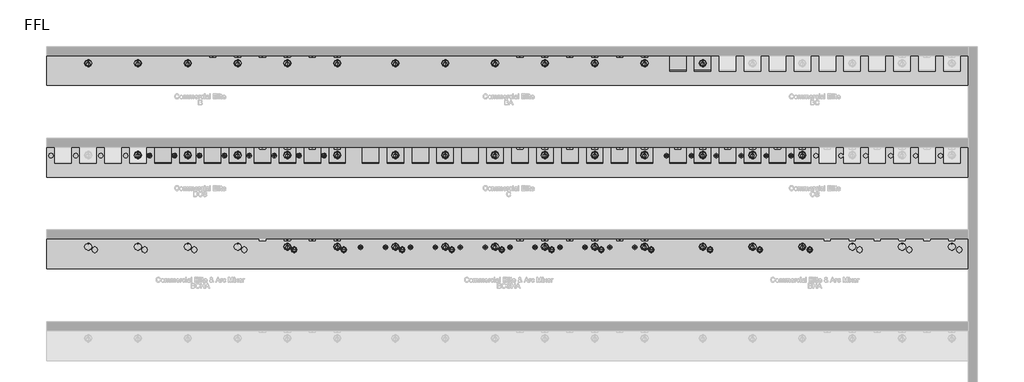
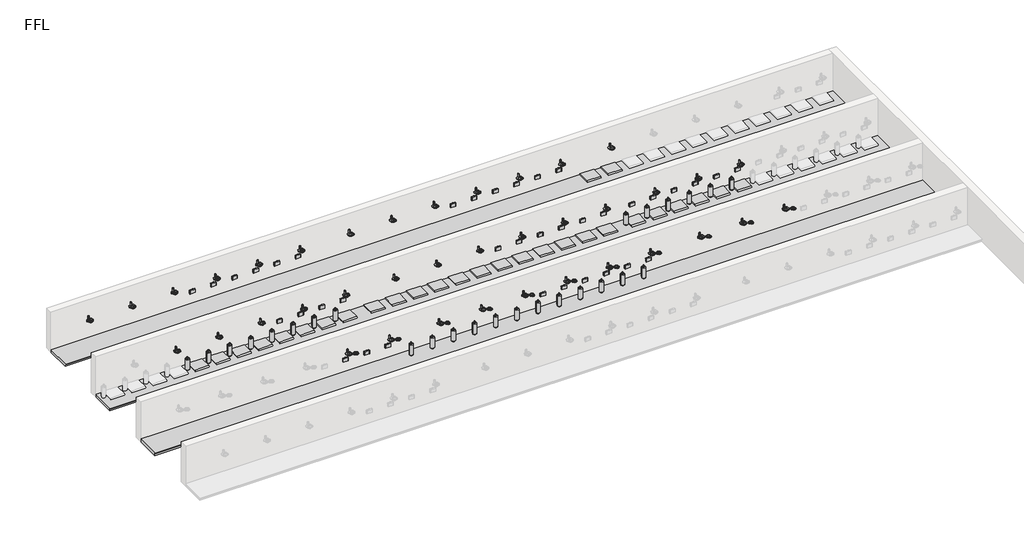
# One storey, part 2 of 13: 140 flow terminals, 3 furniture elements.
"""IFC4 building model written with IfcOpenShell, lengths in millimetres."""

from ifc_helpers import new_model, si_unit, origin, place, context, project, spatial, transform, mapped, element, save
from components import flow_terminal_100_people_nickel_19c471c0, flow_terminal_100_people_matte_black_0dc622b1, bcs_and_bc_6de74493, bright_chrome_743c02cf, brushed_chrome_13082571, co2_gas_cylinder_20234e14, generic_plinth_900mm_f1ea148c

model = new_model("IFC4")

# Units and contexts
model_context = context("Model", 3, world=origin())
ifc_project = project(units=[si_unit("LENGTHUNIT", "METRE", prefix="MILLI")], contexts=[model_context])

# Site, building, storey
site = spatial("IfcSite", under=ifc_project)
building = spatial("IfcBuilding", under=site)
storey = spatial("IfcBuildingStorey", under=building, Name="FFL", Elevation=0.0)

# Flow terminals
placement = place(None, origin())
flow_terminal_100_people_nickel_shape = flow_terminal_100_people_nickel_19c471c0(model_context)
element("IfcFlowTerminal", 1, ObjectType="PlumFixt_Zip Commercial_Elite_CS : 100 People - Bright Chrome", at=placement, inside=storey, context=model_context, shape_type="MappedRepresentation", body=[
    mapped(flow_terminal_100_people_nickel_shape, transform((12029.2647071, 4822.7393304, 0.0), x_axis=(1.0, 0.0, 0.0), y_axis=(0.0, 1.0, 0.0), z_axis=(0.0, 0.0, 1.0))),
])
element("IfcFlowTerminal", 2, ObjectType="PlumFixt_Zip Commercial_Elite_CS : 100 People - Brushed Chrome", at=placement, inside=storey, context=model_context, shape_type="MappedRepresentation", body=[
    mapped(flow_terminal_100_people_nickel_shape, transform((12779.2647071, 4822.7393304, 0.0), x_axis=(1.0, 0.0, 0.0), y_axis=(0.0, 1.0, 0.0), z_axis=(0.0, 0.0, 1.0))),
])
element("IfcFlowTerminal", 3, ObjectType="PlumFixt_Zip Commercial_Elite_CS : 100 People - Brushed Gold", at=placement, inside=storey, context=model_context, shape_type="MappedRepresentation", body=[
    mapped(flow_terminal_100_people_nickel_shape, transform((13529.2647071, 4822.7393304, 0.0), x_axis=(1.0, 0.0, 0.0), y_axis=(0.0, 1.0, 0.0), z_axis=(0.0, 0.0, 1.0))),
])
element("IfcFlowTerminal", 4, ObjectType="PlumFixt_Zip Commercial_Elite_CS : 100 People - Brushed Nickel", at=placement, inside=storey, context=model_context, shape_type="MappedRepresentation", body=[
    mapped(flow_terminal_100_people_nickel_shape, transform((14279.2647071, 4822.7393304, 0.0), x_axis=(1.0, 0.0, 0.0), y_axis=(0.0, 1.0, 0.0), z_axis=(0.0, 0.0, 1.0))),
])
element("IfcFlowTerminal", 5, ObjectType="PlumFixt_Zip Commercial_Elite_CS : 100 People - Brushed Rose Gold", at=placement, inside=storey, context=model_context, shape_type="MappedRepresentation", body=[
    mapped(flow_terminal_100_people_nickel_shape, transform((15029.2647071, 4822.7393304, 0.0), x_axis=(1.0, 0.0, 0.0), y_axis=(0.0, 1.0, 0.0), z_axis=(0.0, 0.0, 1.0))),
])
element("IfcFlowTerminal", 6, ObjectType="PlumFixt_Zip Commercial_Elite_CS : 100 People - Gloss Black", at=placement, inside=storey, context=model_context, shape_type="MappedRepresentation", body=[
    mapped(flow_terminal_100_people_nickel_shape, transform((15779.2647071, 4822.7393304, 0.0), x_axis=(1.0, 0.0, 0.0), y_axis=(0.0, 1.0, 0.0), z_axis=(0.0, 0.0, 1.0))),
])
flow_terminal_100_people_matte_black_shape = flow_terminal_100_people_matte_black_0dc622b1(model_context)
element("IfcFlowTerminal", 7, ObjectType="PlumFixt_Zip Commercial_Elite_B : 100 People - Gold", at=placement, inside=storey, context=model_context, shape_type="MappedRepresentation", body=[
    mapped(flow_terminal_100_people_matte_black_shape, transform((-1970.7352929, 7582.7393304, 0.0), x_axis=(1.0, 0.0, 0.0), y_axis=(0.0, 1.0, 0.0), z_axis=(0.0, 0.0, 1.0))),
])
element("IfcFlowTerminal", 8, ObjectType="PlumFixt_Zip Commercial_Elite_BA : 100 People - Gold", at=placement, inside=storey, context=model_context, shape_type="MappedRepresentation", body=[
    mapped(flow_terminal_100_people_matte_black_shape, transform((7279.2647071, 7582.7393304, 0.0), x_axis=(1.0, 0.0, 0.0), y_axis=(0.0, 1.0, 0.0), z_axis=(0.0, 0.0, 1.0))),
])
element("IfcFlowTerminal", 9, ObjectType="PlumFixt_Zip Commercial_Elite_C : 100 People - Gold", at=placement, inside=storey, context=model_context, shape_type="MappedRepresentation", body=[
    mapped(flow_terminal_100_people_nickel_shape, transform((7279.2647071, 4822.7393304, 0.0), x_axis=(1.0, 0.0, 0.0), y_axis=(0.0, 1.0, 0.0), z_axis=(0.0, 0.0, 1.0))),
])
element("IfcFlowTerminal", 10, ObjectType="PlumFixt_Zip Commercial_Elite_Arc Mixer_BCSHA : 100 People - Gold", at=placement, inside=storey, context=model_context, shape_type="MappedRepresentation", body=[
    mapped(flow_terminal_100_people_matte_black_shape, transform((7279.2647071, 2062.7393304, 0.0), x_axis=(1.0, 0.0, 0.0), y_axis=(0.0, 1.0, 0.0), z_axis=(0.0, 0.0, 1.0))),
])
element("IfcFlowTerminal", 11, ObjectType="PlumFixt_Zip Commercial_Elite_B : 100 People - Gunmetal", at=placement, inside=storey, context=model_context, shape_type="MappedRepresentation", body=[
    mapped(flow_terminal_100_people_matte_black_shape, transform((-1220.7352929, 7582.7393304, 0.0), x_axis=(1.0, 0.0, 0.0), y_axis=(0.0, 1.0, 0.0), z_axis=(0.0, 0.0, 1.0))),
])
element("IfcFlowTerminal", 12, ObjectType="PlumFixt_Zip Commercial_Elite_BA : 100 People - Gunmetal", at=placement, inside=storey, context=model_context, shape_type="MappedRepresentation", body=[
    mapped(flow_terminal_100_people_matte_black_shape, transform((8029.2647071, 7582.7393304, 0.0), x_axis=(1.0, 0.0, 0.0), y_axis=(0.0, 1.0, 0.0), z_axis=(0.0, 0.0, 1.0))),
])
element("IfcFlowTerminal", 13, ObjectType="PlumFixt_Zip Commercial_Elite_C : 100 People - Gunmetal", at=placement, inside=storey, context=model_context, shape_type="MappedRepresentation", body=[
    mapped(flow_terminal_100_people_nickel_shape, transform((8029.2647071, 4822.7393304, 0.0), x_axis=(1.0, 0.0, 0.0), y_axis=(0.0, 1.0, 0.0), z_axis=(0.0, 0.0, 1.0))),
])
element("IfcFlowTerminal", 14, ObjectType="PlumFixt_Zip Commercial_Elite_Arc Mixer_BCSHA : 100 People - Gunmetal", at=placement, inside=storey, context=model_context, shape_type="MappedRepresentation", body=[
    mapped(flow_terminal_100_people_matte_black_shape, transform((8029.2647071, 2062.7393304, 0.0), x_axis=(1.0, 0.0, 0.0), y_axis=(0.0, 1.0, 0.0), z_axis=(0.0, 0.0, 1.0))),
])
element("IfcFlowTerminal", 15, ObjectType="PlumFixt_Zip Commercial_Elite_B : 100 People - Matte Black", at=placement, inside=storey, context=model_context, shape_type="MappedRepresentation", body=[
    mapped(flow_terminal_100_people_matte_black_shape, transform((-470.7352929, 7582.7393304, 0.0), x_axis=(1.0, 0.0, 0.0), y_axis=(0.0, 1.0, 0.0), z_axis=(0.0, 0.0, 1.0))),
])
element("IfcFlowTerminal", 16, ObjectType="PlumFixt_Zip Commercial_Elite_BA : 100 People - Matte Black", at=placement, inside=storey, context=model_context, shape_type="MappedRepresentation", body=[
    mapped(flow_terminal_100_people_matte_black_shape, transform((8779.2647071, 7582.7393304, 0.0), x_axis=(1.0, 0.0, 0.0), y_axis=(0.0, 1.0, 0.0), z_axis=(0.0, 0.0, 1.0))),
])
element("IfcFlowTerminal", 17, ObjectType="PlumFixt_Zip Commercial_Elite_BCS : 100 People - Matte Black", at=placement, inside=storey, context=model_context, shape_type="MappedRepresentation", body=[
    mapped(flow_terminal_100_people_nickel_shape, transform((-470.7352929, 4822.7393304, 0.0), x_axis=(1.0, 0.0, 0.0), y_axis=(0.0, 1.0, 0.0), z_axis=(0.0, 0.0, 1.0))),
])
element("IfcFlowTerminal", 18, ObjectType="PlumFixt_Zip Commercial_Elite_C : 100 People - Matte Black", at=placement, inside=storey, context=model_context, shape_type="MappedRepresentation", body=[
    mapped(flow_terminal_100_people_nickel_shape, transform((8779.2647071, 4822.7393304, 0.0), x_axis=(1.0, 0.0, 0.0), y_axis=(0.0, 1.0, 0.0), z_axis=(0.0, 0.0, 1.0))),
])
element("IfcFlowTerminal", 19, ObjectType="PlumFixt_Zip Commercial_Elite_Arc Mixer_BCSHA : 100 People - Matte Black", at=placement, inside=storey, context=model_context, shape_type="MappedRepresentation", body=[
    mapped(flow_terminal_100_people_matte_black_shape, transform((8779.2647071, 2062.7393304, 0.0), x_axis=(1.0, 0.0, 0.0), y_axis=(0.0, 1.0, 0.0), z_axis=(0.0, 0.0, 1.0))),
])
element("IfcFlowTerminal", 20, ObjectType="PlumFixt_Zip Commercial_Elite_B : 100 People - Nickel", at=placement, inside=storey, context=model_context, shape_type="MappedRepresentation", body=[
    mapped(flow_terminal_100_people_matte_black_shape, transform((279.2647071, 7582.7393304, 0.0), x_axis=(1.0, 0.0, 0.0), y_axis=(0.0, 1.0, 0.0), z_axis=(0.0, 0.0, 1.0))),
])
element("IfcFlowTerminal", 21, ObjectType="PlumFixt_Zip Commercial_Elite_BA : 100 People - Nickel", at=placement, inside=storey, context=model_context, shape_type="MappedRepresentation", body=[
    mapped(flow_terminal_100_people_matte_black_shape, transform((9529.2647071, 7582.7393304, 0.0), x_axis=(1.0, 0.0, 0.0), y_axis=(0.0, 1.0, 0.0), z_axis=(0.0, 0.0, 1.0))),
])
element("IfcFlowTerminal", 22, ObjectType="PlumFixt_Zip Commercial_Elite_BCS : 100 People - Nickel", at=placement, inside=storey, context=model_context, shape_type="MappedRepresentation", body=[
    mapped(flow_terminal_100_people_nickel_shape, transform((279.2647071, 4822.7393304, 0.0), x_axis=(1.0, 0.0, 0.0), y_axis=(0.0, 1.0, 0.0), z_axis=(0.0, 0.0, 1.0))),
])
element("IfcFlowTerminal", 23, ObjectType="PlumFixt_Zip Commercial_Elite_C : 100 People - Nickel", at=placement, inside=storey, context=model_context, shape_type="MappedRepresentation", body=[
    mapped(flow_terminal_100_people_nickel_shape, transform((9529.2647071, 4822.7393304, 0.0), x_axis=(1.0, 0.0, 0.0), y_axis=(0.0, 1.0, 0.0), z_axis=(0.0, 0.0, 1.0))),
])
element("IfcFlowTerminal", 24, ObjectType="PlumFixt_Zip Commercial_Elite_Arc Mixer_BCSHA : 100 People - Nickel", at=placement, inside=storey, context=model_context, shape_type="MappedRepresentation", body=[
    mapped(flow_terminal_100_people_matte_black_shape, transform((9529.2647071, 2062.7393304, 0.0), x_axis=(1.0, 0.0, 0.0), y_axis=(0.0, 1.0, 0.0), z_axis=(0.0, 0.0, 1.0))),
])
element("IfcFlowTerminal", 25, ObjectType="PlumFixt_Zip Commercial_Elite_Arc Mixer_BCHA : 100 People - Nickel", at=placement, inside=storey, context=model_context, shape_type="MappedRepresentation", body=[
    mapped(flow_terminal_100_people_matte_black_shape, transform((279.2647071, 2062.7393304, 0.0), x_axis=(1.0, 0.0, 0.0), y_axis=(0.0, 1.0, 0.0), z_axis=(0.0, 0.0, 1.0))),
])
element("IfcFlowTerminal", 26, ObjectType="PlumFixt_Zip Commercial_Elite_B : 100 People - Platinum", at=placement, inside=storey, context=model_context, shape_type="MappedRepresentation", body=[
    mapped(flow_terminal_100_people_matte_black_shape, transform((1029.2647071, 7582.7393304, 0.0), x_axis=(1.0, 0.0, 0.0), y_axis=(0.0, 1.0, 0.0), z_axis=(0.0, 0.0, 1.0))),
])
element("IfcFlowTerminal", 27, ObjectType="PlumFixt_Zip Commercial_Elite_BA : 100 People - Platinum", at=placement, inside=storey, context=model_context, shape_type="MappedRepresentation", body=[
    mapped(flow_terminal_100_people_matte_black_shape, transform((10279.2647071, 7582.7393304, 0.0), x_axis=(1.0, 0.0, 0.0), y_axis=(0.0, 1.0, 0.0), z_axis=(0.0, 0.0, 1.0))),
])
element("IfcFlowTerminal", 28, ObjectType="PlumFixt_Zip Commercial_Elite_BCS : 100 People - Platinum", at=placement, inside=storey, context=model_context, shape_type="MappedRepresentation", body=[
    mapped(flow_terminal_100_people_nickel_shape, transform((1029.2647071, 4822.7393304, 0.0), x_axis=(1.0, 0.0, 0.0), y_axis=(0.0, 1.0, 0.0), z_axis=(0.0, 0.0, 1.0))),
])
element("IfcFlowTerminal", 29, ObjectType="PlumFixt_Zip Commercial_Elite_C : 100 People - Platinum", at=placement, inside=storey, context=model_context, shape_type="MappedRepresentation", body=[
    mapped(flow_terminal_100_people_nickel_shape, transform((10279.2647071, 4822.7393304, 0.0), x_axis=(1.0, 0.0, 0.0), y_axis=(0.0, 1.0, 0.0), z_axis=(0.0, 0.0, 1.0))),
])
element("IfcFlowTerminal", 30, ObjectType="PlumFixt_Zip Commercial_Elite_Arc Mixer_BCHA : 100 People - Platinum", at=placement, inside=storey, context=model_context, shape_type="MappedRepresentation", body=[
    mapped(flow_terminal_100_people_matte_black_shape, transform((1029.2647071, 2062.7393304, 0.0), x_axis=(1.0, 0.0, 0.0), y_axis=(0.0, 1.0, 0.0), z_axis=(0.0, 0.0, 1.0))),
])
element("IfcFlowTerminal", 31, ObjectType="PlumFixt_Zip Commercial_Elite_Arc Mixer_BCSHA : 100 People - Platinum", at=placement, inside=storey, context=model_context, shape_type="MappedRepresentation", body=[
    mapped(flow_terminal_100_people_matte_black_shape, transform((10279.2647071, 2062.7393304, 0.0), x_axis=(1.0, 0.0, 0.0), y_axis=(0.0, 1.0, 0.0), z_axis=(0.0, 0.0, 1.0))),
])
element("IfcFlowTerminal", 32, ObjectType="PlumFixt_Zip Commercial_Elite_B : 100 People - Rose Gold", at=placement, inside=storey, context=model_context, shape_type="MappedRepresentation", body=[
    mapped(flow_terminal_100_people_matte_black_shape, transform((1779.2647071, 7582.7393304, 0.0), x_axis=(1.0, 0.0, 0.0), y_axis=(0.0, 1.0, 0.0), z_axis=(0.0, 0.0, 1.0))),
])
element("IfcFlowTerminal", 33, ObjectType="PlumFixt_Zip Commercial_Elite_BA : 100 People - Rose Gold", at=placement, inside=storey, context=model_context, shape_type="MappedRepresentation", body=[
    mapped(flow_terminal_100_people_matte_black_shape, transform((11029.2647071, 7582.7393304, 0.0), x_axis=(1.0, 0.0, 0.0), y_axis=(0.0, 1.0, 0.0), z_axis=(0.0, 0.0, 1.0))),
])
element("IfcFlowTerminal", 34, ObjectType="PlumFixt_Zip Commercial_Elite_BCS : 100 People - Rose Gold", at=placement, inside=storey, context=model_context, shape_type="MappedRepresentation", body=[
    mapped(flow_terminal_100_people_nickel_shape, transform((1779.2647071, 4822.7393304, 0.0), x_axis=(1.0, 0.0, 0.0), y_axis=(0.0, 1.0, 0.0), z_axis=(0.0, 0.0, 1.0))),
])
element("IfcFlowTerminal", 35, ObjectType="PlumFixt_Zip Commercial_Elite_C : 100 People - Rose Gold", at=placement, inside=storey, context=model_context, shape_type="MappedRepresentation", body=[
    mapped(flow_terminal_100_people_nickel_shape, transform((11029.2647071, 4822.7393304, 0.0), x_axis=(1.0, 0.0, 0.0), y_axis=(0.0, 1.0, 0.0), z_axis=(0.0, 0.0, 1.0))),
])
element("IfcFlowTerminal", 36, ObjectType="PlumFixt_Zip Commercial_Elite_Arc Mixer_BCSHA : 100 People - Rose Gold", at=placement, inside=storey, context=model_context, shape_type="MappedRepresentation", body=[
    mapped(flow_terminal_100_people_matte_black_shape, transform((11029.2647071, 2062.7393304, 0.0), x_axis=(1.0, 0.0, 0.0), y_axis=(0.0, 1.0, 0.0), z_axis=(0.0, 0.0, 1.0))),
])
element("IfcFlowTerminal", 37, ObjectType="PlumFixt_Zip Commercial_Elite_Arc Mixer_BCHA : 100 People - Rose Gold", at=placement, inside=storey, context=model_context, shape_type="MappedRepresentation", body=[
    mapped(flow_terminal_100_people_matte_black_shape, transform((1779.2647071, 2062.7393304, 0.0), x_axis=(1.0, 0.0, 0.0), y_axis=(0.0, 1.0, 0.0), z_axis=(0.0, 0.0, 1.0))),
])
bcs_and_bc_shape = bcs_and_bc_6de74493(model_context)
element("IfcFlowTerminal", 38, ObjectType="z_PlumFixt_Zip_Vent Tray : BCS and BC", at=placement, inside=storey, context=model_context, shape_type="MappedRepresentation", body=[
    mapped(bcs_and_bc_shape, transform((12029.2647071, 7705.7393304, 100.0), x_axis=(1.0, 0.0, 0.0), y_axis=(0.0, 1.0, 0.0), z_axis=(0.0, 0.0, 1.0))),
])
element("IfcFlowTerminal", 39, ObjectType="z_PlumFixt_Zip_Vent Tray : BCS and BC", at=placement, inside=storey, context=model_context, shape_type="MappedRepresentation", body=[
    mapped(bcs_and_bc_shape, transform((12779.2647071, 7705.7393304, 100.0), x_axis=(1.0, 0.0, 0.0), y_axis=(0.0, 1.0, 0.0), z_axis=(0.0, 0.0, 1.0))),
])
element("IfcFlowTerminal", 40, ObjectType="z_PlumFixt_Zip_Vent Tray : BCS and BC", at=placement, inside=storey, context=model_context, shape_type="MappedRepresentation", body=[
    mapped(bcs_and_bc_shape, transform((-3470.7352929, 4945.7393304, 100.0), x_axis=(1.0, 0.0, 0.0), y_axis=(0.0, 1.0, 0.0), z_axis=(0.0, 0.0, 1.0))),
])
element("IfcFlowTerminal", 41, ObjectType="z_PlumFixt_Zip_Vent Tray : BCS and BC", at=placement, inside=storey, context=model_context, shape_type="MappedRepresentation", body=[
    mapped(bcs_and_bc_shape, transform((-2720.7352929, 4945.7393304, 100.0), x_axis=(1.0, 0.0, 0.0), y_axis=(0.0, 1.0, 0.0), z_axis=(0.0, 0.0, 1.0))),
])
element("IfcFlowTerminal", 42, ObjectType="z_PlumFixt_Zip_Vent Tray : BCS and BC", at=placement, inside=storey, context=model_context, shape_type="MappedRepresentation", body=[
    mapped(bcs_and_bc_shape, transform((-1970.7352929, 4945.7393304, 100.0), x_axis=(1.0, 0.0, 0.0), y_axis=(0.0, 1.0, 0.0), z_axis=(0.0, 0.0, 1.0))),
])
element("IfcFlowTerminal", 43, ObjectType="z_PlumFixt_Zip_Vent Tray : BCS and BC", at=placement, inside=storey, context=model_context, shape_type="MappedRepresentation", body=[
    mapped(bcs_and_bc_shape, transform((-1220.7352929, 4945.7393304, 100.0), x_axis=(1.0, 0.0, 0.0), y_axis=(0.0, 1.0, 0.0), z_axis=(0.0, 0.0, 1.0))),
])
element("IfcFlowTerminal", 44, ObjectType="z_PlumFixt_Zip_Vent Tray : BCS and BC", at=placement, inside=storey, context=model_context, shape_type="MappedRepresentation", body=[
    mapped(bcs_and_bc_shape, transform((-470.7352929, 4945.7393304, 100.0), x_axis=(1.0, 0.0, 0.0), y_axis=(0.0, 1.0, 0.0), z_axis=(0.0, 0.0, 1.0))),
])
element("IfcFlowTerminal", 45, ObjectType="z_PlumFixt_Zip_Vent Tray : BCS and BC", at=placement, inside=storey, context=model_context, shape_type="MappedRepresentation", body=[
    mapped(bcs_and_bc_shape, transform((279.2647071, 4945.7393304, 100.0), x_axis=(1.0, 0.0, 0.0), y_axis=(0.0, 1.0, 0.0), z_axis=(0.0, 0.0, 1.0))),
])
element("IfcFlowTerminal", 46, ObjectType="z_PlumFixt_Zip_Vent Tray : BCS and BC", at=placement, inside=storey, context=model_context, shape_type="MappedRepresentation", body=[
    mapped(bcs_and_bc_shape, transform((1029.2647071, 4945.7393304, 100.0), x_axis=(1.0, 0.0, 0.0), y_axis=(0.0, 1.0, 0.0), z_axis=(0.0, 0.0, 1.0))),
])
element("IfcFlowTerminal", 47, ObjectType="z_PlumFixt_Zip_Vent Tray : BCS and BC", at=placement, inside=storey, context=model_context, shape_type="MappedRepresentation", body=[
    mapped(bcs_and_bc_shape, transform((1779.2647071, 4945.7393304, 100.0), x_axis=(1.0, 0.0, 0.0), y_axis=(0.0, 1.0, 0.0), z_axis=(0.0, 0.0, 1.0))),
])
bright_chrome_shape = bright_chrome_743c02cf(model_context)
element("IfcFlowTerminal", 48, ObjectType="z_PlumFixt_Zip_Font : Bright Chrome", at=placement, inside=storey, context=model_context, shape_type="MappedRepresentation", body=[
    mapped(bright_chrome_shape, transform((3729.5498967, 1991.2393304, 900.0), x_axis=(1.0000000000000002, 0.0, 0.0), y_axis=(0.0, 1.0000000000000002, 0.0), z_axis=(0.0, 0.0, 1.0))),
])
element("IfcFlowTerminal", 49, ObjectType="z_PlumFixt_Zip_Font : Bright Chrome", at=placement, inside=storey, context=model_context, shape_type="MappedRepresentation", body=[
    mapped(bright_chrome_shape, transform((5229.5498967, 1991.2393304, 900.0), x_axis=(1.0000000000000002, 0.0, 0.0), y_axis=(0.0, 1.0000000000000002, 0.0), z_axis=(0.0, 0.0, 1.0))),
])
element("IfcFlowTerminal", 50, ObjectType="z_PlumFixt_Zip_Font : Bright Chrome", at=placement, inside=storey, context=model_context, shape_type="MappedRepresentation", body=[
    mapped(bright_chrome_shape, transform((6729.5498967, 1991.2393304, 900.0), x_axis=(1.0000000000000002, 0.0, 0.0), y_axis=(0.0, 1.0000000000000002, 0.0), z_axis=(0.0, 0.0, 1.0))),
])
element("IfcFlowTerminal", 51, ObjectType="z_PlumFixt_Zip_Font : Bright Chrome", at=placement, inside=storey, context=model_context, shape_type="MappedRepresentation", body=[
    mapped(bright_chrome_shape, transform((8229.5498967, 1991.2393304, 900.0), x_axis=(1.0000000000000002, 0.0, 0.0), y_axis=(0.0, 1.0000000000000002, 0.0), z_axis=(0.0, 0.0, 1.0))),
])
element("IfcFlowTerminal", 52, ObjectType="z_PlumFixt_Zip_Font : Bright Chrome", at=placement, inside=storey, context=model_context, shape_type="MappedRepresentation", body=[
    mapped(bright_chrome_shape, transform((9729.5498967, 1991.2393304, 900.0), x_axis=(1.0000000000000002, 0.0, 0.0), y_axis=(0.0, 1.0000000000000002, 0.0), z_axis=(0.0, 0.0, 1.0))),
])
element("IfcFlowTerminal", 53, ObjectType="z_PlumFixt_Zip_Font : Bright Chrome", at=placement, inside=storey, context=model_context, shape_type="MappedRepresentation", body=[
    mapped(bright_chrome_shape, transform((11229.5498967, 1991.2393304, 900.0), x_axis=(1.0000000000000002, 0.0, 0.0), y_axis=(0.0, 1.0000000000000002, 0.0), z_axis=(0.0, 0.0, 1.0))),
])
element("IfcFlowTerminal", 54, ObjectType="z_PlumFixt_Zip_Font : Bright Chrome", at=placement, inside=storey, context=model_context, shape_type="MappedRepresentation", body=[
    mapped(bright_chrome_shape, transform((12999.229339, 1991.2393304, 900.0), x_axis=(1.0000000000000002, 0.0, 0.0), y_axis=(0.0, 1.0000000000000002, 0.0), z_axis=(0.0, 0.0, 1.0))),
])
element("IfcFlowTerminal", 55, ObjectType="z_PlumFixt_Zip_Font : Bright Chrome", at=placement, inside=storey, context=model_context, shape_type="MappedRepresentation", body=[
    mapped(bright_chrome_shape, transform((14499.229339, 1991.2393304, 900.0), x_axis=(1.0000000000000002, 0.0, 0.0), y_axis=(0.0, 1.0000000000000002, 0.0), z_axis=(0.0, 0.0, 1.0))),
])
element("IfcFlowTerminal", 56, ObjectType="z_PlumFixt_Zip_Font : Bright Chrome", at=placement, inside=storey, context=model_context, shape_type="MappedRepresentation", body=[
    mapped(bright_chrome_shape, transform((15999.229339, 1991.2393304, 900.0), x_axis=(1.0000000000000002, 0.0, 0.0), y_axis=(0.0, 1.0000000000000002, 0.0), z_axis=(0.0, 0.0, 1.0))),
])
element("IfcFlowTerminal", 57, ObjectType="z_PlumFixt_Zip_Font : Bright Chrome", at=placement, inside=storey, context=model_context, shape_type="MappedRepresentation", body=[
    mapped(bright_chrome_shape, transform((479.2647071, 1991.2393304, 900.0), x_axis=(1.0000000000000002, 0.0, 0.0), y_axis=(0.0, 1.0000000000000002, 0.0), z_axis=(0.0, 0.0, 1.0))),
])
element("IfcFlowTerminal", 58, ObjectType="z_PlumFixt_Zip_Font : Bright Chrome", at=placement, inside=storey, context=model_context, shape_type="MappedRepresentation", body=[
    mapped(bright_chrome_shape, transform((1979.2647071, 1991.2393304, 900.0), x_axis=(1.0000000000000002, 0.0, 0.0), y_axis=(0.0, 1.0000000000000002, 0.0), z_axis=(0.0, 0.0, 1.0))),
])
brushed_chrome_shape = brushed_chrome_13082571(model_context)
element("IfcFlowTerminal", 59, ObjectType="z_PlumFixt_Zip_Font and Tap Riser : Brushed Chrome", at=placement, inside=storey, context=model_context, shape_type="MappedRepresentation", body=[
    mapped(brushed_chrome_shape, transform((-5720.7352929, 7597.9893304, 900.0), x_axis=(1.0000000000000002, 0.0, 0.0), y_axis=(0.0, 1.0000000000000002, 0.0), z_axis=(0.0, 0.0, 1.0))),
])
element("IfcFlowTerminal", 60, ObjectType="z_PlumFixt_Zip_Font and Tap Riser : Brushed Chrome", at=placement, inside=storey, context=model_context, shape_type="MappedRepresentation", body=[
    mapped(brushed_chrome_shape, transform((3529.2647071, 7597.9893304, 900.0), x_axis=(1.0000000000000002, 0.0, 0.0), y_axis=(0.0, 1.0000000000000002, 0.0), z_axis=(0.0, 0.0, 1.0))),
])
element("IfcFlowTerminal", 61, ObjectType="z_PlumFixt_Zip_Font and Tap Riser : Brushed Chrome", at=placement, inside=storey, context=model_context, shape_type="MappedRepresentation", body=[
    mapped(brushed_chrome_shape, transform((12779.2647071, 7597.9893304, 900.0), x_axis=(1.0000000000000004, 0.0, 0.0), y_axis=(0.0, 1.0000000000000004, 0.0), z_axis=(0.0, 0.0, 1.0))),
])
element("IfcFlowTerminal", 62, ObjectType="z_PlumFixt_Zip_Font and Tap Riser : Brushed Chrome", at=placement, inside=storey, context=model_context, shape_type="MappedRepresentation", body=[
    mapped(brushed_chrome_shape, transform((12779.2647071, 4837.9893304, 900.0), x_axis=(1.0000000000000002, 0.0, 0.0), y_axis=(0.0, 1.0000000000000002, 0.0), z_axis=(0.0, 0.0, 1.0))),
])
element("IfcFlowTerminal", 63, ObjectType="z_PlumFixt_Zip_Font and Tap Riser : Brushed Chrome", at=placement, inside=storey, context=model_context, shape_type="MappedRepresentation", body=[
    mapped(brushed_chrome_shape, transform((3529.2647071, 4837.9893304, 900.0), x_axis=(1.0000000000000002, 0.0, 0.0), y_axis=(0.0, 1.0000000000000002, 0.0), z_axis=(0.0, 0.0, 1.0))),
])
element("IfcFlowTerminal", 64, ObjectType="z_PlumFixt_Zip_Font and Tap Riser : Brushed Chrome", at=placement, inside=storey, context=model_context, shape_type="MappedRepresentation", body=[
    mapped(brushed_chrome_shape, transform((3529.2647071, 2077.9893304, 900.0), x_axis=(1.0000000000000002, 0.0, 0.0), y_axis=(0.0, 1.0000000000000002, 0.0), z_axis=(0.0, 0.0, 1.0))),
])
element("IfcFlowTerminal", 65, ObjectType="z_PlumFixt_Zip_Font and Tap Riser : Brushed Chrome", at=placement, inside=storey, context=model_context, shape_type="MappedRepresentation", body=[
    mapped(brushed_chrome_shape, transform((12779.2647071, 2077.9893304, 900.0), x_axis=(1.0000000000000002, 0.0, 0.0), y_axis=(0.0, 1.0000000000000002, 0.0), z_axis=(0.0, 0.0, 1.0))),
])
element("IfcFlowTerminal", 66, ObjectType="z_PlumFixt_Zip_Font and Tap Riser : Brushed Nickel", at=placement, inside=storey, context=model_context, shape_type="MappedRepresentation", body=[
    mapped(brushed_chrome_shape, transform((-4220.7352929, 7597.9893304, 900.0), x_axis=(1.0000000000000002, 0.0, 0.0), y_axis=(0.0, 1.0000000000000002, 0.0), z_axis=(0.0, 0.0, 1.0))),
])
element("IfcFlowTerminal", 67, ObjectType="z_PlumFixt_Zip_Font and Tap Riser : Brushed Nickel", at=placement, inside=storey, context=model_context, shape_type="MappedRepresentation", body=[
    mapped(brushed_chrome_shape, transform((5029.2647071, 7597.9893304, 900.0), x_axis=(1.0000000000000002, 0.0, 0.0), y_axis=(0.0, 1.0000000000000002, 0.0), z_axis=(0.0, 0.0, 1.0))),
])
element("IfcFlowTerminal", 68, ObjectType="z_PlumFixt_Zip_Font and Tap Riser : Brushed Nickel", at=placement, inside=storey, context=model_context, shape_type="MappedRepresentation", body=[
    mapped(brushed_chrome_shape, transform((-4220.7352929, 4837.9893304, 900.0), x_axis=(1.0000000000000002, 0.0, 0.0), y_axis=(0.0, 1.0000000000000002, 0.0), z_axis=(0.0, 0.0, 1.0))),
])
element("IfcFlowTerminal", 69, ObjectType="z_PlumFixt_Zip_Font and Tap Riser : Brushed Nickel", at=placement, inside=storey, context=model_context, shape_type="MappedRepresentation", body=[
    mapped(brushed_chrome_shape, transform((14279.2647071, 4837.9893304, 900.0), x_axis=(1.0000000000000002, 0.0, 0.0), y_axis=(0.0, 1.0000000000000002, 0.0), z_axis=(0.0, 0.0, 1.0))),
])
element("IfcFlowTerminal", 70, ObjectType="z_PlumFixt_Zip_Font and Tap Riser : Brushed Nickel", at=placement, inside=storey, context=model_context, shape_type="MappedRepresentation", body=[
    mapped(brushed_chrome_shape, transform((5029.2647071, 4837.9893304, 900.0), x_axis=(1.0000000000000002, 0.0, 0.0), y_axis=(0.0, 1.0000000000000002, 0.0), z_axis=(0.0, 0.0, 1.0))),
])
element("IfcFlowTerminal", 71, ObjectType="z_PlumFixt_Zip_Font and Tap Riser : Brushed Nickel", at=placement, inside=storey, context=model_context, shape_type="MappedRepresentation", body=[
    mapped(brushed_chrome_shape, transform((5029.2647071, 2077.9893304, 900.0), x_axis=(1.0000000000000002, 0.0, 0.0), y_axis=(0.0, 1.0000000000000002, 0.0), z_axis=(0.0, 0.0, 1.0))),
])
element("IfcFlowTerminal", 72, ObjectType="z_PlumFixt_Zip_Font and Tap Riser : Brushed Nickel", at=placement, inside=storey, context=model_context, shape_type="MappedRepresentation", body=[
    mapped(brushed_chrome_shape, transform((14279.2647071, 2077.9893304, 900.0), x_axis=(1.0000000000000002, 0.0, 0.0), y_axis=(0.0, 1.0000000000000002, 0.0), z_axis=(0.0, 0.0, 1.0))),
])
co2_gas_cylinder_shape = co2_gas_cylinder_20234e14(model_context)
element("IfcFlowTerminal", 73, ObjectType="z_PlumFixt_Zip_CO2 Gas Cylinder : CO2 Gas Cylinder", at=placement, inside=storey, context=model_context, shape_type="MappedRepresentation", body=[
    mapped(co2_gas_cylinder_shape, transform((-3865.7352929, 4749.2393304, 100.0), x_axis=(-1.0, 0.0, 0.0), y_axis=(0.0, -1.0, 0.0), z_axis=(0.0, 0.0, 1.0))),
])
element("IfcFlowTerminal", 74, ObjectType="z_PlumFixt_Zip_CO2 Gas Cylinder : CO2 Gas Cylinder", at=placement, inside=storey, context=model_context, shape_type="MappedRepresentation", body=[
    mapped(co2_gas_cylinder_shape, transform((-3115.7352929, 4749.2393304, 100.0), x_axis=(-1.0, 0.0, 0.0), y_axis=(0.0, -1.0, 0.0), z_axis=(0.0, 0.0, 1.0))),
])
element("IfcFlowTerminal", 75, ObjectType="z_PlumFixt_Zip_CO2 Gas Cylinder : CO2 Gas Cylinder", at=placement, inside=storey, context=model_context, shape_type="MappedRepresentation", body=[
    mapped(co2_gas_cylinder_shape, transform((-2365.7352929, 4749.2393304, 100.0), x_axis=(-1.0, 0.0, 0.0), y_axis=(0.0, -1.0, 0.0), z_axis=(0.0, 0.0, 1.0))),
])
element("IfcFlowTerminal", 76, ObjectType="z_PlumFixt_Zip_CO2 Gas Cylinder : CO2 Gas Cylinder", at=placement, inside=storey, context=model_context, shape_type="MappedRepresentation", body=[
    mapped(co2_gas_cylinder_shape, transform((-1615.7352929, 4749.2393304, 100.0), x_axis=(-1.0, 0.0, 0.0), y_axis=(0.0, -1.0, 0.0), z_axis=(0.0, 0.0, 1.0))),
])
element("IfcFlowTerminal", 77, ObjectType="z_PlumFixt_Zip_CO2 Gas Cylinder : CO2 Gas Cylinder", at=placement, inside=storey, context=model_context, shape_type="MappedRepresentation", body=[
    mapped(co2_gas_cylinder_shape, transform((-865.7352929, 4749.2393304, 100.0), x_axis=(-1.0, 0.0, 0.0), y_axis=(0.0, -1.0, 0.0), z_axis=(0.0, 0.0, 1.0))),
])
element("IfcFlowTerminal", 78, ObjectType="z_PlumFixt_Zip_CO2 Gas Cylinder : CO2 Gas Cylinder", at=placement, inside=storey, context=model_context, shape_type="MappedRepresentation", body=[
    mapped(co2_gas_cylinder_shape, transform((-115.7352929, 4749.2393304, 100.0), x_axis=(-1.0, 0.0, 0.0), y_axis=(0.0, -1.0, 0.0), z_axis=(0.0, 0.0, 1.0))),
])
element("IfcFlowTerminal", 79, ObjectType="z_PlumFixt_Zip_CO2 Gas Cylinder : CO2 Gas Cylinder", at=placement, inside=storey, context=model_context, shape_type="MappedRepresentation", body=[
    mapped(co2_gas_cylinder_shape, transform((634.2647071, 4749.2393304, 100.0), x_axis=(-1.0, 0.0, 0.0), y_axis=(0.0, -1.0, 0.0), z_axis=(0.0, 0.0, 1.0))),
])
element("IfcFlowTerminal", 80, ObjectType="z_PlumFixt_Zip_CO2 Gas Cylinder : CO2 Gas Cylinder", at=placement, inside=storey, context=model_context, shape_type="MappedRepresentation", body=[
    mapped(co2_gas_cylinder_shape, transform((1384.2647071, 4749.2393304, 100.0), x_axis=(-1.0, 0.0, 0.0), y_axis=(0.0, -1.0, 0.0), z_axis=(0.0, 0.0, 1.0))),
])
element("IfcFlowTerminal", 81, ObjectType="z_PlumFixt_Zip_CO2 Gas Cylinder : CO2 Gas Cylinder", at=placement, inside=storey, context=model_context, shape_type="MappedRepresentation", body=[
    mapped(co2_gas_cylinder_shape, transform((11691.2647071, 4743.2393304, 100.0), x_axis=(-1.0, 0.0, 0.0), y_axis=(0.0, -1.0, 0.0), z_axis=(0.0, 0.0, 1.0))),
])
element("IfcFlowTerminal", 82, ObjectType="z_PlumFixt_Zip_CO2 Gas Cylinder : CO2 Gas Cylinder", at=placement, inside=storey, context=model_context, shape_type="MappedRepresentation", body=[
    mapped(co2_gas_cylinder_shape, transform((12441.2647071, 4743.2393304, 100.0), x_axis=(-1.0, 0.0, 0.0), y_axis=(0.0, -1.0, 0.0), z_axis=(0.0, 0.0, 1.0))),
])
element("IfcFlowTerminal", 83, ObjectType="z_PlumFixt_Zip_CO2 Gas Cylinder : CO2 Gas Cylinder", at=placement, inside=storey, context=model_context, shape_type="MappedRepresentation", body=[
    mapped(co2_gas_cylinder_shape, transform((13191.2647071, 4743.2393304, 100.0), x_axis=(-1.0, 0.0, 0.0), y_axis=(0.0, -1.0, 0.0), z_axis=(0.0, 0.0, 1.0))),
])
element("IfcFlowTerminal", 84, ObjectType="z_PlumFixt_Zip_CO2 Gas Cylinder : CO2 Gas Cylinder", at=placement, inside=storey, context=model_context, shape_type="MappedRepresentation", body=[
    mapped(co2_gas_cylinder_shape, transform((13941.2647071, 4743.2393304, 100.0), x_axis=(-1.0, 0.0, 0.0), y_axis=(0.0, -1.0, 0.0), z_axis=(0.0, 0.0, 1.0))),
])
element("IfcFlowTerminal", 85, ObjectType="z_PlumFixt_Zip_CO2 Gas Cylinder : CO2 Gas Cylinder", at=placement, inside=storey, context=model_context, shape_type="MappedRepresentation", body=[
    mapped(co2_gas_cylinder_shape, transform((14691.2647071, 4743.2393304, 100.0), x_axis=(-1.0, 0.0, 0.0), y_axis=(0.0, -1.0, 0.0), z_axis=(0.0, 0.0, 1.0))),
])
element("IfcFlowTerminal", 86, ObjectType="z_PlumFixt_Zip_CO2 Gas Cylinder : CO2 Gas Cylinder", at=placement, inside=storey, context=model_context, shape_type="MappedRepresentation", body=[
    mapped(co2_gas_cylinder_shape, transform((15441.2647071, 4743.2393304, 100.0), x_axis=(-1.0, 0.0, 0.0), y_axis=(0.0, -1.0, 0.0), z_axis=(0.0, 0.0, 1.0))),
])
element("IfcFlowTerminal", 87, ObjectType="z_PlumFixt_Zip_CO2 Gas Cylinder : CO2 Gas Cylinder", at=placement, inside=storey, context=model_context, shape_type="MappedRepresentation", body=[
    mapped(co2_gas_cylinder_shape, transform((2484.2647071, 1989.2393304, 100.0), x_axis=(-1.0, 0.0, 0.0), y_axis=(0.0, -1.0, 0.0), z_axis=(0.0, 0.0, 1.0))),
])
element("IfcFlowTerminal", 88, ObjectType="z_PlumFixt_Zip_CO2 Gas Cylinder : CO2 Gas Cylinder", at=placement, inside=storey, context=model_context, shape_type="MappedRepresentation", body=[
    mapped(co2_gas_cylinder_shape, transform((3234.2647071, 1989.2393304, 100.0), x_axis=(-1.0, 0.0, 0.0), y_axis=(0.0, -1.0, 0.0), z_axis=(0.0, 0.0, 1.0))),
])
element("IfcFlowTerminal", 89, ObjectType="z_PlumFixt_Zip_CO2 Gas Cylinder : CO2 Gas Cylinder", at=placement, inside=storey, context=model_context, shape_type="MappedRepresentation", body=[
    mapped(co2_gas_cylinder_shape, transform((3984.2647071, 1989.2393304, 100.0), x_axis=(-1.0, 0.0, 0.0), y_axis=(0.0, -1.0, 0.0), z_axis=(0.0, 0.0, 1.0))),
])
element("IfcFlowTerminal", 90, ObjectType="z_PlumFixt_Zip_CO2 Gas Cylinder : CO2 Gas Cylinder", at=placement, inside=storey, context=model_context, shape_type="MappedRepresentation", body=[
    mapped(co2_gas_cylinder_shape, transform((4734.2647071, 1989.2393304, 100.0), x_axis=(-1.0, 0.0, 0.0), y_axis=(0.0, -1.0, 0.0), z_axis=(0.0, 0.0, 1.0))),
])
element("IfcFlowTerminal", 91, ObjectType="z_PlumFixt_Zip_CO2 Gas Cylinder : CO2 Gas Cylinder", at=placement, inside=storey, context=model_context, shape_type="MappedRepresentation", body=[
    mapped(co2_gas_cylinder_shape, transform((5484.2647071, 1989.2393304, 100.0), x_axis=(-1.0, 0.0, 0.0), y_axis=(0.0, -1.0, 0.0), z_axis=(0.0, 0.0, 1.0))),
])
element("IfcFlowTerminal", 92, ObjectType="z_PlumFixt_Zip_CO2 Gas Cylinder : CO2 Gas Cylinder", at=placement, inside=storey, context=model_context, shape_type="MappedRepresentation", body=[
    mapped(co2_gas_cylinder_shape, transform((6234.2647071, 1989.2393304, 100.0), x_axis=(-1.0, 0.0, 0.0), y_axis=(0.0, -1.0, 0.0), z_axis=(0.0, 0.0, 1.0))),
])
element("IfcFlowTerminal", 93, ObjectType="z_PlumFixt_Zip_CO2 Gas Cylinder : CO2 Gas Cylinder", at=placement, inside=storey, context=model_context, shape_type="MappedRepresentation", body=[
    mapped(co2_gas_cylinder_shape, transform((6984.2647071, 1989.2393304, 100.0), x_axis=(-1.0, 0.0, 0.0), y_axis=(0.0, -1.0, 0.0), z_axis=(0.0, 0.0, 1.0))),
])
element("IfcFlowTerminal", 94, ObjectType="z_PlumFixt_Zip_CO2 Gas Cylinder : CO2 Gas Cylinder", at=placement, inside=storey, context=model_context, shape_type="MappedRepresentation", body=[
    mapped(co2_gas_cylinder_shape, transform((7734.2647071, 1989.2393304, 100.0), x_axis=(-1.0, 0.0, 0.0), y_axis=(0.0, -1.0, 0.0), z_axis=(0.0, 0.0, 1.0))),
])
element("IfcFlowTerminal", 95, ObjectType="z_PlumFixt_Zip_CO2 Gas Cylinder : CO2 Gas Cylinder", at=placement, inside=storey, context=model_context, shape_type="MappedRepresentation", body=[
    mapped(co2_gas_cylinder_shape, transform((8484.2647071, 1989.2393304, 100.0), x_axis=(-1.0, 0.0, 0.0), y_axis=(0.0, -1.0, 0.0), z_axis=(0.0, 0.0, 1.0))),
])
element("IfcFlowTerminal", 96, ObjectType="z_PlumFixt_Zip_CO2 Gas Cylinder : CO2 Gas Cylinder", at=placement, inside=storey, context=model_context, shape_type="MappedRepresentation", body=[
    mapped(co2_gas_cylinder_shape, transform((9234.2647071, 1989.2393304, 100.0), x_axis=(-1.0, 0.0, 0.0), y_axis=(0.0, -1.0, 0.0), z_axis=(0.0, 0.0, 1.0))),
])
element("IfcFlowTerminal", 97, ObjectType="z_PlumFixt_Zip_CO2 Gas Cylinder : CO2 Gas Cylinder", at=placement, inside=storey, context=model_context, shape_type="MappedRepresentation", body=[
    mapped(co2_gas_cylinder_shape, transform((9984.2647071, 1989.2393304, 100.0), x_axis=(-1.0, 0.0, 0.0), y_axis=(0.0, -1.0, 0.0), z_axis=(0.0, 0.0, 1.0))),
])
element("IfcFlowTerminal", 98, ObjectType="z_PlumFixt_Zip_CO2 Gas Cylinder : CO2 Gas Cylinder", at=placement, inside=storey, context=model_context, shape_type="MappedRepresentation", body=[
    mapped(co2_gas_cylinder_shape, transform((10734.2647071, 1989.2393304, 100.0), x_axis=(-1.0, 0.0, 0.0), y_axis=(0.0, -1.0, 0.0), z_axis=(0.0, 0.0, 1.0))),
])
element("IfcFlowTerminal", 99, ObjectType="z_PlumFixt_Zip_Vent Tray : CS and C", at=placement, inside=storey, context=model_context, shape_type="MappedRepresentation", body=[
    mapped(bcs_and_bc_shape, transform((12029.2647071, 4945.7393304, 100.0), x_axis=(1.0, 0.0, 0.0), y_axis=(0.0, 1.0, 0.0), z_axis=(0.0, 0.0, 1.0))),
])
element("IfcFlowTerminal", 100, ObjectType="z_PlumFixt_Zip_Vent Tray : CS and C", at=placement, inside=storey, context=model_context, shape_type="MappedRepresentation", body=[
    mapped(bcs_and_bc_shape, transform((2779.2647071, 4945.7393304, 100.0), x_axis=(1.0, 0.0, 0.0), y_axis=(0.0, 1.0, 0.0), z_axis=(0.0, 0.0, 1.0))),
])
element("IfcFlowTerminal", 101, ObjectType="z_PlumFixt_Zip_Vent Tray : CS and C", at=placement, inside=storey, context=model_context, shape_type="MappedRepresentation", body=[
    mapped(bcs_and_bc_shape, transform((3529.2647071, 4945.7393304, 100.0), x_axis=(1.0, 0.0, 0.0), y_axis=(0.0, 1.0, 0.0), z_axis=(0.0, 0.0, 1.0))),
])
element("IfcFlowTerminal", 102, ObjectType="z_PlumFixt_Zip_Vent Tray : CS and C", at=placement, inside=storey, context=model_context, shape_type="MappedRepresentation", body=[
    mapped(bcs_and_bc_shape, transform((4279.2647071, 4945.7393304, 100.0), x_axis=(1.0, 0.0, 0.0), y_axis=(0.0, 1.0, 0.0), z_axis=(0.0, 0.0, 1.0))),
])
element("IfcFlowTerminal", 103, ObjectType="z_PlumFixt_Zip_Vent Tray : CS and C", at=placement, inside=storey, context=model_context, shape_type="MappedRepresentation", body=[
    mapped(bcs_and_bc_shape, transform((5029.2647071, 4945.7393304, 100.0), x_axis=(1.0, 0.0, 0.0), y_axis=(0.0, 1.0, 0.0), z_axis=(0.0, 0.0, 1.0))),
])
element("IfcFlowTerminal", 104, ObjectType="z_PlumFixt_Zip_Vent Tray : CS and C", at=placement, inside=storey, context=model_context, shape_type="MappedRepresentation", body=[
    mapped(bcs_and_bc_shape, transform((5779.2647071, 4945.7393304, 100.0), x_axis=(1.0, 0.0, 0.0), y_axis=(0.0, 1.0, 0.0), z_axis=(0.0, 0.0, 1.0))),
])
element("IfcFlowTerminal", 105, ObjectType="z_PlumFixt_Zip_Vent Tray : CS and C", at=placement, inside=storey, context=model_context, shape_type="MappedRepresentation", body=[
    mapped(bcs_and_bc_shape, transform((6529.2647071, 4945.7393304, 100.0), x_axis=(1.0, 0.0, 0.0), y_axis=(0.0, 1.0, 0.0), z_axis=(0.0, 0.0, 1.0))),
])
element("IfcFlowTerminal", 106, ObjectType="z_PlumFixt_Zip_Vent Tray : CS and C", at=placement, inside=storey, context=model_context, shape_type="MappedRepresentation", body=[
    mapped(bcs_and_bc_shape, transform((7279.2647071, 4945.7393304, 100.0), x_axis=(1.0, 0.0, 0.0), y_axis=(0.0, 1.0, 0.0), z_axis=(0.0, 0.0, 1.0))),
])
element("IfcFlowTerminal", 107, ObjectType="z_PlumFixt_Zip_Vent Tray : CS and C", at=placement, inside=storey, context=model_context, shape_type="MappedRepresentation", body=[
    mapped(bcs_and_bc_shape, transform((8029.2647071, 4945.7393304, 100.0), x_axis=(1.0, 0.0, 0.0), y_axis=(0.0, 1.0, 0.0), z_axis=(0.0, 0.0, 1.0))),
])
element("IfcFlowTerminal", 108, ObjectType="z_PlumFixt_Zip_Vent Tray : CS and C", at=placement, inside=storey, context=model_context, shape_type="MappedRepresentation", body=[
    mapped(bcs_and_bc_shape, transform((8779.2647071, 4945.7393304, 100.0), x_axis=(1.0, 0.0, 0.0), y_axis=(0.0, 1.0, 0.0), z_axis=(0.0, 0.0, 1.0))),
])
element("IfcFlowTerminal", 109, ObjectType="z_PlumFixt_Zip_Vent Tray : CS and C", at=placement, inside=storey, context=model_context, shape_type="MappedRepresentation", body=[
    mapped(bcs_and_bc_shape, transform((9529.2647071, 4945.7393304, 100.0), x_axis=(1.0, 0.0, 0.0), y_axis=(0.0, 1.0, 0.0), z_axis=(0.0, 0.0, 1.0))),
])
element("IfcFlowTerminal", 110, ObjectType="z_PlumFixt_Zip_Vent Tray : CS and C", at=placement, inside=storey, context=model_context, shape_type="MappedRepresentation", body=[
    mapped(bcs_and_bc_shape, transform((10279.2647071, 4945.7393304, 100.0), x_axis=(1.0, 0.0, 0.0), y_axis=(0.0, 1.0, 0.0), z_axis=(0.0, 0.0, 1.0))),
])
element("IfcFlowTerminal", 111, ObjectType="z_PlumFixt_Zip_Vent Tray : CS and C", at=placement, inside=storey, context=model_context, shape_type="MappedRepresentation", body=[
    mapped(bcs_and_bc_shape, transform((11029.2647071, 4945.7393304, 100.0), x_axis=(1.0, 0.0, 0.0), y_axis=(0.0, 1.0, 0.0), z_axis=(0.0, 0.0, 1.0))),
])
element("IfcFlowTerminal", 112, ObjectType="z_PlumFixt_Zip_Vent Tray : CS and C", at=placement, inside=storey, context=model_context, shape_type="MappedRepresentation", body=[
    mapped(bcs_and_bc_shape, transform((12779.2647071, 4945.7393304, 100.0), x_axis=(1.0, 0.0, 0.0), y_axis=(0.0, 1.0, 0.0), z_axis=(0.0, 0.0, 1.0))),
])
element("IfcFlowTerminal", 113, ObjectType="z_PlumFixt_Zip_Vent Tray : CS and C", at=placement, inside=storey, context=model_context, shape_type="MappedRepresentation", body=[
    mapped(bcs_and_bc_shape, transform((13529.2647071, 4945.7393304, 100.0), x_axis=(1.0, 0.0, 0.0), y_axis=(0.0, 1.0, 0.0), z_axis=(0.0, 0.0, 1.0))),
])
element("IfcFlowTerminal", 114, ObjectType="z_PlumFixt_Zip_Vent Tray : CS and C", at=placement, inside=storey, context=model_context, shape_type="MappedRepresentation", body=[
    mapped(bcs_and_bc_shape, transform((14279.2647071, 4945.7393304, 100.0), x_axis=(1.0, 0.0, 0.0), y_axis=(0.0, 1.0, 0.0), z_axis=(0.0, 0.0, 1.0))),
])
element("IfcFlowTerminal", 115, ObjectType="z_PlumFixt_Zip_Vent Tray : CS and C", at=placement, inside=storey, context=model_context, shape_type="MappedRepresentation", body=[
    mapped(bcs_and_bc_shape, transform((15029.2647071, 4945.7393304, 100.0), x_axis=(1.0, 0.0, 0.0), y_axis=(0.0, 1.0, 0.0), z_axis=(0.0, 0.0, 1.0))),
])
element("IfcFlowTerminal", 116, ObjectType="z_PlumFixt_Zip_Vent Tray : CS and C", at=placement, inside=storey, context=model_context, shape_type="MappedRepresentation", body=[
    mapped(bcs_and_bc_shape, transform((15779.2647071, 4945.7393304, 100.0), x_axis=(1.0, 0.0, 0.0), y_axis=(0.0, 1.0, 0.0), z_axis=(0.0, 0.0, 1.0))),
])
element("IfcFlowTerminal", 117, ObjectType="z_PlumFixt_Zip_Font and Tap Riser : Gloss Black", at=placement, inside=storey, context=model_context, shape_type="MappedRepresentation", body=[
    mapped(brushed_chrome_shape, transform((-2720.7352929, 7597.9893304, 900.0), x_axis=(1.0000000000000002, 0.0, 0.0), y_axis=(0.0, 1.0000000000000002, 0.0), z_axis=(0.0, 0.0, 1.0))),
])
element("IfcFlowTerminal", 118, ObjectType="z_PlumFixt_Zip_Font and Tap Riser : Gloss Black", at=placement, inside=storey, context=model_context, shape_type="MappedRepresentation", body=[
    mapped(brushed_chrome_shape, transform((6529.2647071, 7597.9893304, 900.0), x_axis=(1.0000000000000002, 0.0, 0.0), y_axis=(0.0, 1.0000000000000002, 0.0), z_axis=(0.0, 0.0, 1.0))),
])
element("IfcFlowTerminal", 119, ObjectType="z_PlumFixt_Zip_Font and Tap Riser : Gloss Black", at=placement, inside=storey, context=model_context, shape_type="MappedRepresentation", body=[
    mapped(brushed_chrome_shape, transform((-2720.7352929, 4837.9893304, 900.0), x_axis=(1.0000000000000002, 0.0, 0.0), y_axis=(0.0, 1.0000000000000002, 0.0), z_axis=(0.0, 0.0, 1.0))),
])
element("IfcFlowTerminal", 120, ObjectType="z_PlumFixt_Zip_Font and Tap Riser : Gloss Black", at=placement, inside=storey, context=model_context, shape_type="MappedRepresentation", body=[
    mapped(brushed_chrome_shape, transform((15779.2647071, 4837.9893304, 900.0), x_axis=(1.0000000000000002, 0.0, 0.0), y_axis=(0.0, 1.0000000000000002, 0.0), z_axis=(0.0, 0.0, 1.0))),
])
element("IfcFlowTerminal", 121, ObjectType="z_PlumFixt_Zip_Font and Tap Riser : Gloss Black", at=placement, inside=storey, context=model_context, shape_type="MappedRepresentation", body=[
    mapped(brushed_chrome_shape, transform((6529.2647071, 4837.9893304, 900.0), x_axis=(1.0000000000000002, 0.0, 0.0), y_axis=(0.0, 1.0000000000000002, 0.0), z_axis=(0.0, 0.0, 1.0))),
])
element("IfcFlowTerminal", 122, ObjectType="z_PlumFixt_Zip_Font and Tap Riser : Gloss Black", at=placement, inside=storey, context=model_context, shape_type="MappedRepresentation", body=[
    mapped(brushed_chrome_shape, transform((6529.2647071, 2077.9893304, 900.0), x_axis=(1.0000000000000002, 0.0, 0.0), y_axis=(0.0, 1.0000000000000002, 0.0), z_axis=(0.0, 0.0, 1.0))),
])
element("IfcFlowTerminal", 123, ObjectType="z_PlumFixt_Zip_Font and Tap Riser : Gloss Black", at=placement, inside=storey, context=model_context, shape_type="MappedRepresentation", body=[
    mapped(brushed_chrome_shape, transform((15779.2647071, 2077.9893304, 900.0), x_axis=(1.0000000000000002, 0.0, 0.0), y_axis=(0.0, 1.0000000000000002, 0.0), z_axis=(0.0, 0.0, 1.0))),
])
element("IfcFlowTerminal", 124, ObjectType="z_PlumFixt_Zip_Font and Tap Riser : Gunmetal", at=placement, inside=storey, context=model_context, shape_type="MappedRepresentation", body=[
    mapped(brushed_chrome_shape, transform((-1220.7352929, 7597.9893304, 900.0), x_axis=(1.0000000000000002, 0.0, 0.0), y_axis=(0.0, 1.0000000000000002, 0.0), z_axis=(0.0, 0.0, 1.0))),
])
element("IfcFlowTerminal", 125, ObjectType="z_PlumFixt_Zip_Font and Tap Riser : Gunmetal", at=placement, inside=storey, context=model_context, shape_type="MappedRepresentation", body=[
    mapped(brushed_chrome_shape, transform((8029.2647071, 7597.9893304, 900.0), x_axis=(1.0000000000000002, 0.0, 0.0), y_axis=(0.0, 1.0000000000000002, 0.0), z_axis=(0.0, 0.0, 1.0))),
])
element("IfcFlowTerminal", 126, ObjectType="z_PlumFixt_Zip_Font and Tap Riser : Gunmetal", at=placement, inside=storey, context=model_context, shape_type="MappedRepresentation", body=[
    mapped(brushed_chrome_shape, transform((-1220.7352929, 4837.9893304, 900.0), x_axis=(1.0000000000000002, 0.0, 0.0), y_axis=(0.0, 1.0000000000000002, 0.0), z_axis=(0.0, 0.0, 1.0))),
])
element("IfcFlowTerminal", 127, ObjectType="z_PlumFixt_Zip_Font and Tap Riser : Gunmetal", at=placement, inside=storey, context=model_context, shape_type="MappedRepresentation", body=[
    mapped(brushed_chrome_shape, transform((8029.2647071, 4837.9893304, 900.0), x_axis=(1.0000000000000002, 0.0, 0.0), y_axis=(0.0, 1.0000000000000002, 0.0), z_axis=(0.0, 0.0, 1.0))),
])
element("IfcFlowTerminal", 128, ObjectType="z_PlumFixt_Zip_Font and Tap Riser : Gunmetal", at=placement, inside=storey, context=model_context, shape_type="MappedRepresentation", body=[
    mapped(brushed_chrome_shape, transform((8029.2647071, 2077.9893304, 900.0), x_axis=(1.0000000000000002, 0.0, 0.0), y_axis=(0.0, 1.0000000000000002, 0.0), z_axis=(0.0, 0.0, 1.0))),
])
element("IfcFlowTerminal", 129, ObjectType="z_PlumFixt_Zip_Font and Tap Riser : Nickel", at=placement, inside=storey, context=model_context, shape_type="MappedRepresentation", body=[
    mapped(brushed_chrome_shape, transform((279.2647071, 7597.9893304, 900.0), x_axis=(1.0000000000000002, 0.0, 0.0), y_axis=(0.0, 1.0000000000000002, 0.0), z_axis=(0.0, 0.0, 1.0))),
])
element("IfcFlowTerminal", 130, ObjectType="z_PlumFixt_Zip_Font and Tap Riser : Nickel", at=placement, inside=storey, context=model_context, shape_type="MappedRepresentation", body=[
    mapped(brushed_chrome_shape, transform((9529.2647071, 7597.9893304, 900.0), x_axis=(1.0000000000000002, 0.0, 0.0), y_axis=(0.0, 1.0000000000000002, 0.0), z_axis=(0.0, 0.0, 1.0))),
])
element("IfcFlowTerminal", 131, ObjectType="z_PlumFixt_Zip_Font and Tap Riser : Nickel", at=placement, inside=storey, context=model_context, shape_type="MappedRepresentation", body=[
    mapped(brushed_chrome_shape, transform((279.2647071, 4837.9893304, 900.0), x_axis=(1.0000000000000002, 0.0, 0.0), y_axis=(0.0, 1.0000000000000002, 0.0), z_axis=(0.0, 0.0, 1.0))),
])
element("IfcFlowTerminal", 132, ObjectType="z_PlumFixt_Zip_Font and Tap Riser : Nickel", at=placement, inside=storey, context=model_context, shape_type="MappedRepresentation", body=[
    mapped(brushed_chrome_shape, transform((9529.2647071, 4837.9893304, 900.0), x_axis=(1.0000000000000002, 0.0, 0.0), y_axis=(0.0, 1.0000000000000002, 0.0), z_axis=(0.0, 0.0, 1.0))),
])
element("IfcFlowTerminal", 133, ObjectType="z_PlumFixt_Zip_Font and Tap Riser : Nickel", at=placement, inside=storey, context=model_context, shape_type="MappedRepresentation", body=[
    mapped(brushed_chrome_shape, transform((9529.2647071, 2077.9893304, 900.0), x_axis=(1.0000000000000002, 0.0, 0.0), y_axis=(0.0, 1.0000000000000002, 0.0), z_axis=(0.0, 0.0, 1.0))),
])
element("IfcFlowTerminal", 134, ObjectType="z_PlumFixt_Zip_Font and Tap Riser : Nickel", at=placement, inside=storey, context=model_context, shape_type="MappedRepresentation", body=[
    mapped(brushed_chrome_shape, transform((279.2647071, 2077.9893304, 900.0), x_axis=(1.0000000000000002, 0.0, 0.0), y_axis=(0.0, 1.0000000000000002, 0.0), z_axis=(0.0, 0.0, 1.0))),
])
element("IfcFlowTerminal", 135, ObjectType="z_PlumFixt_Zip_Font and Tap Riser : Rose Gold", at=placement, inside=storey, context=model_context, shape_type="MappedRepresentation", body=[
    mapped(brushed_chrome_shape, transform((1779.2647071, 7597.9893304, 900.0), x_axis=(1.0000000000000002, 0.0, 0.0), y_axis=(0.0, 1.0000000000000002, 0.0), z_axis=(0.0, 0.0, 1.0))),
])
element("IfcFlowTerminal", 136, ObjectType="z_PlumFixt_Zip_Font and Tap Riser : Rose Gold", at=placement, inside=storey, context=model_context, shape_type="MappedRepresentation", body=[
    mapped(brushed_chrome_shape, transform((11029.2647071, 7597.9893304, 900.0), x_axis=(1.0000000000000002, 0.0, 0.0), y_axis=(0.0, 1.0000000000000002, 0.0), z_axis=(0.0, 0.0, 1.0))),
])
element("IfcFlowTerminal", 137, ObjectType="z_PlumFixt_Zip_Font and Tap Riser : Rose Gold", at=placement, inside=storey, context=model_context, shape_type="MappedRepresentation", body=[
    mapped(brushed_chrome_shape, transform((1779.2647071, 4837.9893304, 900.0), x_axis=(1.0000000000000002, 0.0, 0.0), y_axis=(0.0, 1.0000000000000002, 0.0), z_axis=(0.0, 0.0, 1.0))),
])
element("IfcFlowTerminal", 138, ObjectType="z_PlumFixt_Zip_Font and Tap Riser : Rose Gold", at=placement, inside=storey, context=model_context, shape_type="MappedRepresentation", body=[
    mapped(brushed_chrome_shape, transform((11029.2647071, 4837.9893304, 900.0), x_axis=(1.0000000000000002, 0.0, 0.0), y_axis=(0.0, 1.0000000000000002, 0.0), z_axis=(0.0, 0.0, 1.0))),
])
element("IfcFlowTerminal", 139, ObjectType="z_PlumFixt_Zip_Font and Tap Riser : Rose Gold", at=placement, inside=storey, context=model_context, shape_type="MappedRepresentation", body=[
    mapped(brushed_chrome_shape, transform((11029.2647071, 2077.9893304, 900.0), x_axis=(1.0000000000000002, 0.0, 0.0), y_axis=(0.0, 1.0000000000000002, 0.0), z_axis=(0.0, 0.0, 1.0))),
])
element("IfcFlowTerminal", 140, ObjectType="z_PlumFixt_Zip_Font and Tap Riser : Rose Gold", at=placement, inside=storey, context=model_context, shape_type="MappedRepresentation", body=[
    mapped(brushed_chrome_shape, transform((1779.2647071, 2077.9893304, 900.0), x_axis=(1.0000000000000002, 0.0, 0.0), y_axis=(0.0, 1.0000000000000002, 0.0), z_axis=(0.0, 0.0, 1.0))),
])

# Furniture
generic_plinth_900mm_shape = generic_plinth_900mm_f1ea148c(model_context)
element("IfcFurniture", 141, ObjectType="Generic Plinth : 900mm", at=placement, inside=storey, context=model_context, shape_type="MappedRepresentation", body=[
    mapped(generic_plinth_900mm_shape, transform((6886.5270022, 7848.2393304, 0.0), x_axis=(1.0, 0.0, 0.0), y_axis=(0.0, 1.0, 0.0), z_axis=(0.0, 0.0, 1.0))),
])
element("IfcFurniture", 142, ObjectType="Generic Plinth : 900mm", at=placement, inside=storey, context=model_context, shape_type="MappedRepresentation", body=[
    mapped(generic_plinth_900mm_shape, transform((6886.5270022, 5088.2393304, 0.0), x_axis=(1.0, 0.0, 0.0), y_axis=(0.0, 1.0, 0.0), z_axis=(0.0, 0.0, 1.0))),
])
element("IfcFurniture", 143, ObjectType="Generic Plinth : 900mm", at=placement, inside=storey, context=model_context, shape_type="MappedRepresentation", body=[
    mapped(generic_plinth_900mm_shape, transform((6886.5270022, 2328.2393304, 0.0), x_axis=(1.0, 0.0, 0.0), y_axis=(0.0, 1.0, 0.0), z_axis=(0.0, 0.0, 1.0))),
])

save(model, "model.ifc")
